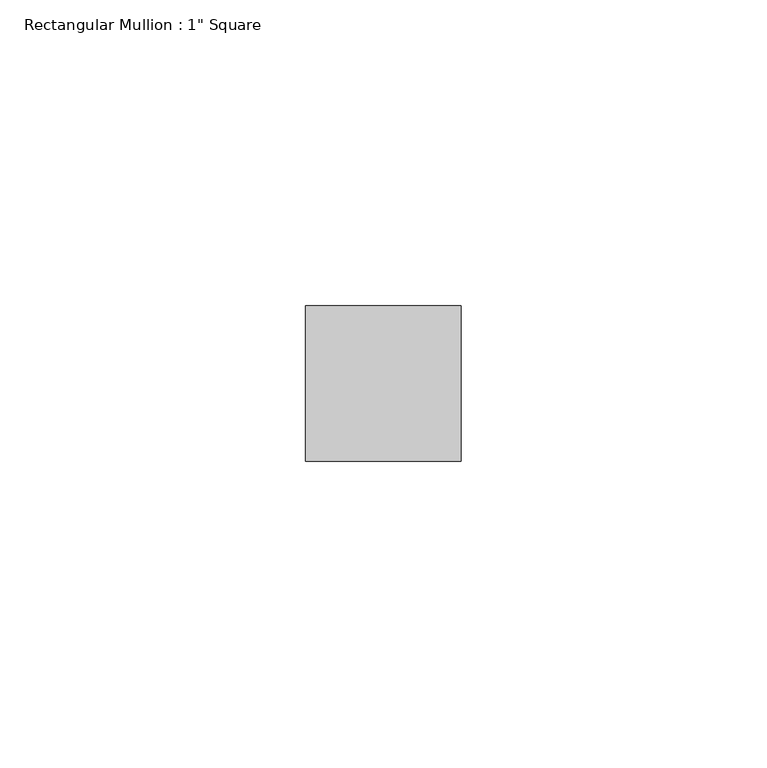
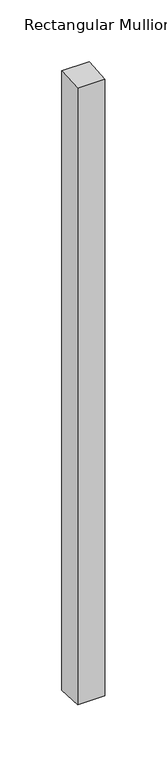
"""IFC4 building model written with IfcOpenShell, lengths in millimetres: member geometry."""

from ifc_helpers import new_model, si_unit, origin, place, context, project, spatial, faceted_brep, source, transform, mapped, element, save


def member_9a5219bf(model_context):
    return source(origin(), model_context, "Body", "Brep", [
        faceted_brep([(-25.4, 12.7, 0.7635261), (0.0, 12.7, 0.7587374), (0.0, 12.7, -610.3587374), (-25.4, 12.7, -610.3635261), (-25.4, -12.7, -0.7539486), (-25.4, -12.7, -608.8460514), (0.0, -12.7, -0.7587374), (0.0, -12.7, -608.8412626)], [[[0, 1, 2, 3]], [[4, 0, 3, 5]], [[6, 4, 5, 7]], [[1, 6, 7, 2]], [[1, 0, 4, 6]], [[2, 7, 5, 3]]]),
    ])


if __name__ == "__main__":
    model = new_model("IFC4")
    model_context = context("Model", 3, world=origin())
    ifc_project = project(units=[si_unit("LENGTHUNIT", "METRE", prefix="MILLI")], contexts=[model_context])
    site = spatial("IfcSite", under=ifc_project)
    building = spatial("IfcBuilding", under=site)
    placement = place(None, origin())
    member_shape = member_9a5219bf(model_context)
    element("IfcMember", 1, ObjectType="Rectangular Mullion : 1\" Square", at=placement, inside=building, context=model_context, shape_type="MappedRepresentation", body=[
        mapped(member_shape, transform((0.0, 0.0, 0.0), x_axis=(1.0, 0.0, 0.0), y_axis=(0.0, 1.0, 0.0), z_axis=(0.0, 0.0, 1.0))),
    ])
    save(model, "model.ifc")
